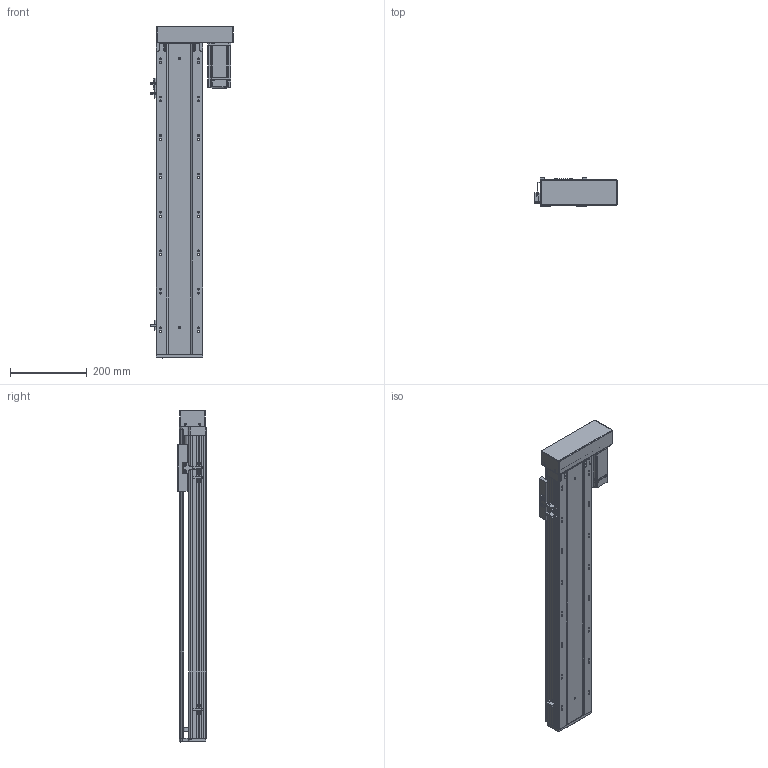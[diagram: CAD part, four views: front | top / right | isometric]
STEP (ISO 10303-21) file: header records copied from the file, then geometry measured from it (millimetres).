
FILE_DESCRIPTION (( 'STEP AP203' ), '1' );
FILE_NAME ('RY120-L2020-300-RK.SLDASM_600.step', '2021-03-12T07:14:26', ( '盈信电脑' ), ( '东莞市道滘镇水果街19号' ), 'SwSTEP 2.0', 'SolidWorks 2012', '' );
FILE_SCHEMA (( 'CONFIG_CONTROL_DESIGN' ));
Length unit declared in the file: millimetre
Products named in the file (15): RY120-L2020-300-RK.SLDASM_600; RY120-400W萇儂傷-酘衵殏_450; 侂狟400W侜督萇儂; RY120蛌殏萇儂欶; RY120转拆电端丝杆支撑座(20丝杆，7002轴承); 15; RY120酘殏萇儂假蚾啣; 滅袉蝶18-10; 滅袉蝶18-24; RY120外置感应片(140共用）; 覜茼ん672; RY120-300-RK蛌殏倰第菁釱_600; RY120綴裔啣; RY120臏賑輸(20蹟譫); RY120-300-RK蛌殏倰第奻裔啣_600
Assembly tree (17 placements, depth 4):
  RY120-L2020-300-RK.SLDASM_600
    RY120-300-RK蛌殏倰第菁釱_600
    RY120-300-RK蛌殏倰第奻裔啣_600
    RY120臏賑輸(20蹟譫)
    RY120綴裔啣
    覜茼ん672  x3
    滅袉蝶18-10
    滅袉蝶18-24  x2
    RY120外置感应片(140共用）
    RY120转拆电端丝杆支撑座(20丝杆，7002轴承)
    RY120-400W萇儂傷-酘衵殏_450
      RY120酘殏萇儂假蚾啣
      侂狟400W侜督萇儂
        15
      RY120蛌殏萇儂欶
Bounding box: 214.2 x 73 x 864 mm (x, y, z)
Volume: 2667928.9 mm3; surface area: 970501.1 mm2
Topology: 16 solids, 16 shells, 2462 faces, 6775 edges, 4340 vertices
Faces by surface type: plane 1226, cylinder 918, cone 213, bspline 105
Entity records: 81753 total; most frequent: CARTESIAN_POINT 23083, ORIENTED_EDGE 12254, DIRECTION 11283, EDGE_CURVE 6127, VERTEX_POINT 4008, VECTOR 3785, LINE 3785, AXIS2_PLACEMENT_3D 3749
